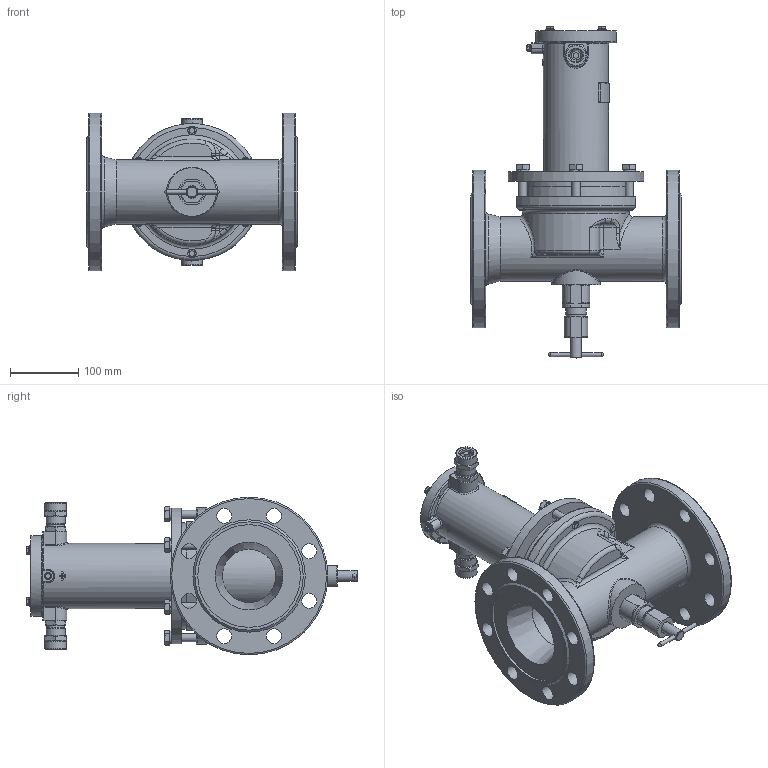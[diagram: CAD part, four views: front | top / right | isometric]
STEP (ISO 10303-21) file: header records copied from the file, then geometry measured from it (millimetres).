
FILE_DESCRIPTION(('STEP AP203'), '1');
FILE_NAME('ÑÅÍÑ DN100PN25-ÍÎ.stp', '2018-09-19T08:36:20', ('Îðëîâ Å.Â.'), ('ÎÎÎ ÍÏÏ Ñåíñîð'), 'ASCON STEP Converter 1.3', 'Kompas 3D', '');
FILE_SCHEMA(('CONFIG_CONTROL_DESIGN','SUPPORT_RESOURCE_SCHEMA'));
Length unit declared in the file: millimetre
Products named in the file (1): 18
Bounding box: 308 x 484.7 x 230 mm (x, y, z)
Volume: 3702711.8 mm3; surface area: 774063.9 mm2
Topology: 3 solids, 21 shells, 1995 faces, 5319 edges, 3443 vertices
Faces by surface type: cylinder 1011, plane 729, cone 126, bspline 56, torus 49, extrusion 16, sphere 8
Full cylindrical faces by diameter (mm): 3.5 x2, 4.134 x1, 4.917 x4, 5 x1, 6 x9, 6.5 x4, 8 x6, 10 x1, 12 x16, 13 x8, 16 x2, 17 x2, 18 x1, 18.632 x2, 20 x3, 22 x18, 22.376 x2, 23 x1, 23.5 x2, 24 x2, 24.5 x2, 26 x4, 26.376 x2, 27.8 x1, 28 x3, 28.5 x2, 30 x2, 31 x2, 53 x1, 56 x2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
Entity records: 79970 total; most frequent: CARTESIAN_POINT 29303, DIRECTION 10913, ORIENTED_EDGE 10580, EDGE_CURVE 5290, AXIS2_PLACEMENT_3D 4203, VERTEX_POINT 3443, VECTOR 2507, LINE 2491
